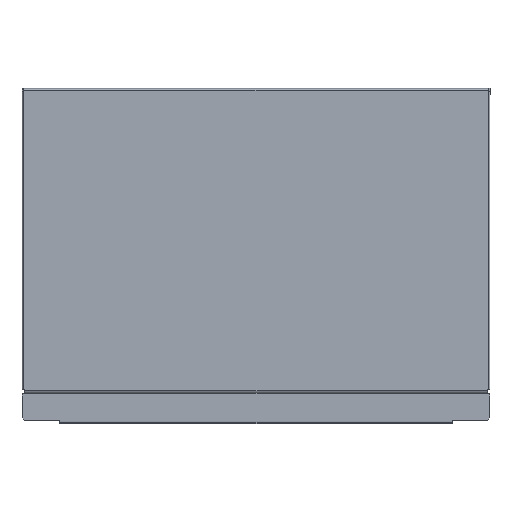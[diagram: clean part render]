
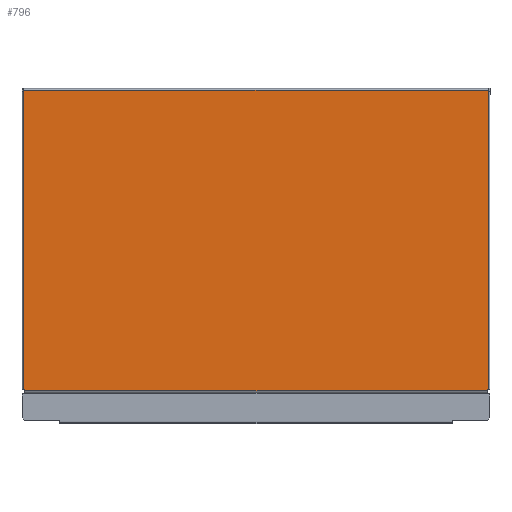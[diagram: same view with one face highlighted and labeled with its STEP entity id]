
A CAD part, front view. The second image highlights one B-rep face of the part: STEP entity #796.
In plain terms, the highlighted planar face has unit normal (0, -1, 0).
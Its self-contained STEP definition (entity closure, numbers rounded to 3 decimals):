
#24 = DIRECTION ( 'NONE',  ( 0., 0., -1. ) ) ;
#25 = CARTESIAN_POINT ( 'NONE',  ( -129., -6., 202.385 ) ) ;
#45 = DIRECTION ( 'NONE',  ( 0., 0., -1. ) ) ;
#47 = CARTESIAN_POINT ( 'NONE',  ( -128.5, -6., 17.5 ) ) ;
#52 = DIRECTION ( 'NONE',  ( 1., 0., 0. ) ) ;
#54 = CARTESIAN_POINT ( 'NONE',  ( -130., -6., 17.5 ) ) ;
#55 = DIRECTION ( 'NONE',  ( 1., 0., 0. ) ) ;
#56 = CARTESIAN_POINT ( 'NONE',  ( -130., -6., 17. ) ) ;
#57 = DIRECTION ( 'NONE',  ( 0., 0., 1. ) ) ;
#59 = CARTESIAN_POINT ( 'NONE',  ( 128.5, -6., 15.3 ) ) ;
#60 = DIRECTION ( 'NONE',  ( 1., 0., 0. ) ) ;
#61 = CARTESIAN_POINT ( 'NONE',  ( 128.5, -6., 17.5 ) ) ;
#63 = DIRECTION ( 'NONE',  ( 0., 0., -1. ) ) ;
#64 = CARTESIAN_POINT ( 'NONE',  ( 129., -6., 202.385 ) ) ;
#65 = DIRECTION ( 'NONE',  ( 0., 0., -1. ) ) ;
#66 = CARTESIAN_POINT ( 'NONE',  ( 129., -6., 202.385 ) ) ;
#68 = DIRECTION ( 'NONE',  ( 1., 0., 0. ) ) ;
#69 = CARTESIAN_POINT ( 'NONE',  ( -130., -6., 184. ) ) ;
#70 = DIRECTION ( 'NONE',  ( 0., 0., -1. ) ) ;
#71 = CARTESIAN_POINT ( 'NONE',  ( -129., -6., 202.385 ) ) ;
#127 = VERTEX_POINT ( 'NONE', #416 ) ;
#132 = VERTEX_POINT ( 'NONE', #415 ) ;
#156 = VERTEX_POINT ( 'NONE', #410 ) ;
#162 = VERTEX_POINT ( 'NONE', #409 ) ;
#172 = VERTEX_POINT ( 'NONE', #407 ) ;
#234 = VERTEX_POINT ( 'NONE', #395 ) ;
#239 = VERTEX_POINT ( 'NONE', #394 ) ;
#243 = VERTEX_POINT ( 'NONE', #393 ) ;
#254 = VERTEX_POINT ( 'NONE', #391 ) ;
#309 = VERTEX_POINT ( 'NONE', #376 ) ;
#376 = CARTESIAN_POINT ( 'NONE',  ( -129., -6., 184. ) ) ;
#391 = CARTESIAN_POINT ( 'NONE',  ( 128.5, -6., 17.5 ) ) ;
#393 = CARTESIAN_POINT ( 'NONE',  ( 129., -6., 183.5 ) ) ;
#394 = CARTESIAN_POINT ( 'NONE',  ( 129., -6., 17.5 ) ) ;
#395 = CARTESIAN_POINT ( 'NONE',  ( 129., -6., 184. ) ) ;
#407 = CARTESIAN_POINT ( 'NONE',  ( 128.5, -6., 17. ) ) ;
#409 = CARTESIAN_POINT ( 'NONE',  ( -129., -6., 183.5 ) ) ;
#410 = CARTESIAN_POINT ( 'NONE',  ( -129., -6., 17.5 ) ) ;
#415 = CARTESIAN_POINT ( 'NONE',  ( -128.5, -6., 17.5 ) ) ;
#416 = CARTESIAN_POINT ( 'NONE',  ( -128.5, -6., 17. ) ) ;
#612 = EDGE_CURVE ( 'NONE', #309, #162, #2072, .T. ) ;
#613 = EDGE_CURVE ( 'NONE', #309, #234, #2074, .T. ) ;
#614 = EDGE_CURVE ( 'NONE', #234, #243, #2076, .T. ) ;
#615 = EDGE_CURVE ( 'NONE', #243, #239, #2078, .T. ) ;
#616 = EDGE_CURVE ( 'NONE', #254, #239, #2080, .T. ) ;
#617 = EDGE_CURVE ( 'NONE', #172, #254, #2082, .T. ) ;
#618 = EDGE_CURVE ( 'NONE', #127, #172, #2084, .T. ) ;
#619 = EDGE_CURVE ( 'NONE', #156, #132, #2086, .T. ) ;
#621 = EDGE_CURVE ( 'NONE', #132, #127, #2088, .T. ) ;
#628 = EDGE_CURVE ( 'NONE', #162, #156, #2100, .T. ) ;
#686 = AXIS2_PLACEMENT_3D ( 'NONE', #1555, #1554, #1553 ) ;
#796 = ADVANCED_FACE ( 'NONE', ( #2155 ), #1557, .T. ) ;
#996 = EDGE_LOOP ( 'NONE', ( #1922, #1921, #1920, #1919, #1918, #1917, #1916, #1915, #1914, #1913 ) ) ;
#1553 = DIRECTION ( 'NONE',  ( 1., 0., 0. ) ) ;
#1554 = DIRECTION ( 'NONE',  ( 0., -1., 0. ) ) ;
#1555 = CARTESIAN_POINT ( 'NONE',  ( -130., -6., 17. ) ) ;
#1557 = PLANE ( 'NONE',  #686 ) ;
#1913 = ORIENTED_EDGE ( 'NONE', *, *, #612, .T. ) ;
#1914 = ORIENTED_EDGE ( 'NONE', *, *, #613, .F. ) ;
#1915 = ORIENTED_EDGE ( 'NONE', *, *, #614, .F. ) ;
#1916 = ORIENTED_EDGE ( 'NONE', *, *, #615, .F. ) ;
#1917 = ORIENTED_EDGE ( 'NONE', *, *, #616, .T. ) ;
#1918 = ORIENTED_EDGE ( 'NONE', *, *, #617, .T. ) ;
#1919 = ORIENTED_EDGE ( 'NONE', *, *, #618, .T. ) ;
#1920 = ORIENTED_EDGE ( 'NONE', *, *, #621, .T. ) ;
#1921 = ORIENTED_EDGE ( 'NONE', *, *, #619, .T. ) ;
#1922 = ORIENTED_EDGE ( 'NONE', *, *, #628, .T. ) ;
#2072 = LINE ( 'NONE', #71, #2073 ) ;
#2073 = VECTOR ( 'NONE', #70, 1000. ) ;
#2074 = LINE ( 'NONE', #69, #2075 ) ;
#2075 = VECTOR ( 'NONE', #68, 1000. ) ;
#2076 = LINE ( 'NONE', #66, #2077 ) ;
#2077 = VECTOR ( 'NONE', #65, 1000. ) ;
#2078 = LINE ( 'NONE', #64, #2079 ) ;
#2079 = VECTOR ( 'NONE', #63, 1000. ) ;
#2080 = LINE ( 'NONE', #61, #2081 ) ;
#2081 = VECTOR ( 'NONE', #60, 1000. ) ;
#2082 = LINE ( 'NONE', #59, #2083 ) ;
#2083 = VECTOR ( 'NONE', #57, 1000. ) ;
#2084 = LINE ( 'NONE', #56, #2085 ) ;
#2085 = VECTOR ( 'NONE', #55, 1000. ) ;
#2086 = LINE ( 'NONE', #54, #2087 ) ;
#2087 = VECTOR ( 'NONE', #52, 1000. ) ;
#2088 = LINE ( 'NONE', #47, #2090 ) ;
#2090 = VECTOR ( 'NONE', #45, 1000. ) ;
#2100 = LINE ( 'NONE', #25, #2101 ) ;
#2101 = VECTOR ( 'NONE', #24, 1000. ) ;
#2155 = FACE_OUTER_BOUND ( 'NONE', #996, .T. ) ;
